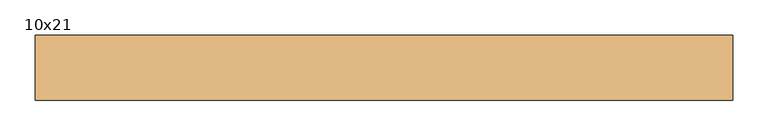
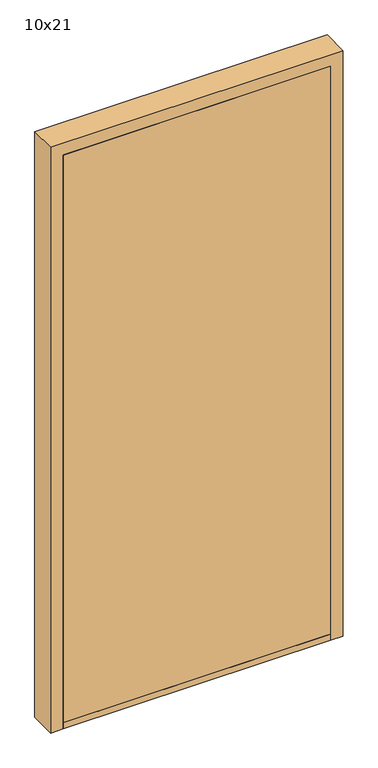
"""IFC4 building model written with IfcOpenShell, lengths in millimetres: door geometry, Innerdør Slett (Diplomat) : 10x21."""

from ifc_helpers import new_model, si_unit, point, frame, frame_2d, origin, origin_with_axes, place, context, project, spatial, polyline, circle_curve, trimmed, segment, composite_curve, outline, extrude, source, transform, mapped, element, save
from ifc_brep_helpers import plane_surface, cylinder_surface, revolved_surface, advanced_brep


def door_10x21_f4578b2d(model_context):
    return source(origin(), model_context, "Body", "SolidModel", [
        advanced_brep(
        [(393.9611305, -60.0, 949.1175955), (388.8520664, -60.0, 949.9496913), (326.0476109, -60.0, 943.6260011), (296.721536, -60.0, 938.7393398), (291.8691983, -60.0, 951.8913379), (295.505009, -60.0, 959.9624074), (300.3175669, -60.0, 964.8810513), (318.8963175, -60.0, 967.2639242), (363.6202158, -60.0, 964.1804415), (368.6891233, -60.0, 964.26032), (417.2687793, -60.0, 969.1517356), (446.379633, -60.0, 951.3474568), (408.3841161, -60.0, 942.6204086), (368.6891233, -67.1084716, 964.26032), (363.6202158, -67.1084716, 964.1804415), (318.8963175, -67.1084716, 967.2639242), (300.3175669, -67.1084716, 964.8810513), (295.505009, -67.1084716, 959.9624074), (291.8691983, -67.1084716, 951.8913379), (296.721536, -67.1084716, 938.7393398), (326.0476109, -67.1084716, 943.6260011), (388.8520664, -67.1084716, 949.9496913), (393.9611305, -67.1084716, 949.1175955), (408.3841161, -67.1084716, 942.6204086), (406.379633, -67.1084716, 951.3474568), (417.2687793, -67.1084716, 969.1517356), (446.379633, -95.0, 951.3474568), (406.379633, -95.0, 951.3474568)],
        [
            (0, 1, circle_curve(frame((389.8538865, -60.0, 940.0), z_axis=(0.0, -1.0, 0.0), x_axis=(-0.9949691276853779, 0.0, -0.10018200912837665)), 10.0)),
            (1, 2),
            (2, 3, circle_curve(frame((307.8569644, -60.0, 962.352734), z_axis=(0.0, 1.0, 0.0), x_axis=(-0.9949691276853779, 0.0, -0.10018200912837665)), 26.1072815)),
            (3, 4, circle_curve(frame((300.9867937, -60.0, 947.7840939), z_axis=(0.0, 1.0, 0.0), x_axis=(-0.9949691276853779, 0.0, -0.10018200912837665)), 10.0)),
            (4, 5),
            (5, 6, circle_curve(frame((304.6226045, -60.0, 955.8551634), z_axis=(0.0, 1.0, 0.0), x_axis=(-0.9949691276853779, 0.0, -0.10018200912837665)), 10.0)),
            (6, 7, circle_curve(frame((313.2326797, -60.0, 937.8033877), z_axis=(0.0, 1.0, 0.0), x_axis=(-0.9949691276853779, 0.0, -0.10018200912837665)), 30.0)),
            (7, 8),
            (8, 9, circle_curve(frame((365.683663, -60.0, 994.1093938), z_axis=(0.0, -1.0, 0.0), x_axis=(-0.9949691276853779, 0.0, -0.10018200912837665)), 30.0)),
            (9, 10),
            (10, 11, circle_curve(frame((426.379633, -60.0, 951.3474568), z_axis=(0.0, 1.0, 0.0), x_axis=(-1.0, 0.0, 0.0)), 20.0)),
            (11, 12, circle_curve(frame((426.379633, -60.0, 951.3474568), z_axis=(0.0, 1.0, 0.0), x_axis=(-1.0, 0.0, 0.0)), 20.0)),
            (12, 0),
            (13, 14, circle_curve(frame((365.683663, -67.1084716, 994.1093938), z_axis=(0.0, 1.0, 0.0), x_axis=(-0.9949691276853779, 0.0, -0.10018200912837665)), 30.0)),
            (14, 15),
            (15, 16, circle_curve(frame((313.2326797, -67.1084716, 937.8033877), z_axis=(0.0, -1.0, 0.0), x_axis=(-0.9949691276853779, 0.0, -0.10018200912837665)), 30.0)),
            (16, 17, circle_curve(frame((304.6226045, -67.1084716, 955.8551634), z_axis=(0.0, -1.0, 0.0), x_axis=(-0.9949691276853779, 0.0, -0.10018200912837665)), 10.0)),
            (17, 18),
            (18, 19, circle_curve(frame((300.9867937, -67.1084716, 947.7840939), z_axis=(0.0, -1.0, 0.0), x_axis=(-0.9949691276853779, 0.0, -0.10018200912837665)), 10.0)),
            (19, 20, circle_curve(frame((307.8569644, -67.1084716, 962.352734), z_axis=(0.0, -1.0, 0.0), x_axis=(-0.9949691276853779, 0.0, -0.10018200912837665)), 26.1072815)),
            (20, 21),
            (21, 22, circle_curve(frame((389.8538865, -67.1084716, 940.0), z_axis=(0.0, 1.0, 0.0), x_axis=(-0.9949691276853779, 0.0, -0.10018200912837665)), 10.0)),
            (22, 23),
            (23, 24, circle_curve(frame((426.379633, -67.1084716, 951.3474568), z_axis=(0.0, 1.0, 0.0), x_axis=(-1.0, 0.0, 0.0)), 20.0)),
            (24, 25, circle_curve(frame((426.379633, -67.1084716, 951.3474568), z_axis=(0.0, 1.0, 0.0), x_axis=(-1.0, 0.0, 0.0)), 20.0)),
            (25, 13),
            (9, 13),
            (25, 10),
            (22, 0),
            (12, 23),
            (21, 1),
            (20, 2),
            (19, 3),
            (18, 4),
            (17, 5),
            (16, 6),
            (15, 7),
            (14, 8),
            (26, 27, circle_curve(frame((426.379633, -95.0, 951.3474568), z_axis=(0.0, -1.0, 0.0), x_axis=(-1.0, 0.0, 0.0)), 20.0)),
            (27, 26, circle_curve(frame((426.379633, -95.0, 951.3474568), z_axis=(0.0, -1.0, 0.0), x_axis=(-1.0, 0.0, 0.0)), 20.0)),
            (27, 24),
            (11, 26),
        ],
        [
            plane_surface(frame((417.6960588, -60.0, 969.1947577), z_axis=(0.0, 1.0000000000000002, 0.0), x_axis=(0.9949691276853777, 0.0, 0.10018200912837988))),
            plane_surface(frame((417.6960588, -67.1084716, 969.1947577), z_axis=(0.0, -1.0000000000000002, 0.0), x_axis=(-0.9949691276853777, 0.0, -0.10018200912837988))),
            plane_surface(frame((368.6891233, -60.0, 964.26032), z_axis=(-0.10018200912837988, 0.0, 0.9949691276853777), x_axis=(0.0, -1.0, 0.0))),
            plane_surface(frame((426.9687366, -60.0, 934.2485115), z_axis=(-0.41072439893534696, 0.0, -0.91175954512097), x_axis=(0.0, -1.0, 0.0))),
            revolved_surface(polyline([(379.9041952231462, -67.1084716, 938.9981799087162), (379.9041952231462, -60.0, 938.9981799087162)]), (389.8538865, -67.1084716, 940.0), (0.0, -1.0, 0.0)),
            plane_surface(frame((388.8520664, -60.0, 949.9496913), z_axis=(0.10018200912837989, 0.0, -0.9949691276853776), x_axis=(0.0, -1.0, 0.0))),
            cylinder_surface(frame((307.8569644, -67.1084716, 962.352734), z_axis=(0.0, 1.0, 0.0), x_axis=(-0.9949691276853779, 0.0, -0.10018200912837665)), 26.1072815),
            cylinder_surface(frame((300.9867937, -67.1084716, 947.7840939), z_axis=(0.0, 1.0, 0.0), x_axis=(-0.9949691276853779, 0.0, -0.10018200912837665)), 10.0),
            plane_surface(frame((291.8691983, -60.0, 951.8913379), z_axis=(-0.9117595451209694, 0.0, 0.41072439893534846), x_axis=(0.0, -1.0, 0.0))),
            cylinder_surface(frame((304.6226045, -67.1084716, 955.8551634), z_axis=(0.0, 1.0, 0.0), x_axis=(-0.9949691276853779, 0.0, -0.10018200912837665)), 10.0),
            cylinder_surface(frame((313.2326797, -67.1084716, 937.8033877), z_axis=(0.0, 1.0, 0.0), x_axis=(-0.9949691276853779, 0.0, -0.10018200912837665)), 30.0),
            plane_surface(frame((318.8963175, -60.0, 967.2639242), z_axis=(0.06878157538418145, 0.0, 0.9976317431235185), x_axis=(0.0, -1.0, 0.0))),
            revolved_surface(polyline([(335.8345891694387, -67.1084716, 991.1039335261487), (335.8345891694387, -60.0, 991.1039335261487)]), (365.683663, -67.1084716, 994.1093938), (0.0, -1.0, 0.0)),
            plane_surface(frame((406.379633, -95.0, 951.3474568), z_axis=(0.0, -1.0, 0.0), x_axis=(0.0, 0.0, -1.0))),
            cylinder_surface(frame((426.379633, -95.0, 951.3474568), z_axis=(0.0, 1.0, 0.0), x_axis=(-1.0, 0.0, 0.0)), 20.0),
        ],
        [
            (0, [[1, 2, 3, 4, 5, 6, 7, 8, 9, 10, 11, 12, 13]]),
            (1, [[14, 15, 16, 17, 18, 19, 20, 21, 22, 23, 24, 25, 26]]),
            (2, [[27, -26, 28, -10]]),
            (3, [[29, -13, 30, -23]]),
            (4, [[-1, -29, -22, 31]]),
            (5, [[-2, -31, -21, 32]]),
            (6, [[-3, -32, -20, 33]]),
            (7, [[-4, -33, -19, 34]]),
            (8, [[-5, -34, -18, 35]]),
            (9, [[-6, -35, -17, 36]]),
            (10, [[-7, -36, -16, 37]]),
            (11, [[-8, -37, -15, 38]]),
            (12, [[-9, -38, -14, -27]]),
            (13, [[39, 40]]),
            (14, [[-40, 41, -24, -30, -12, 42]]),
            (14, [[-39, -42, -11, -28, -25, -41]]),
        ],
    ),
        extrude(outline(composite_curve([segment(trimmed(circle_curve(frame_2d((866.3474568, 426.379633)), 20.0), [point((866.3474568, 446.379633))], [point((866.3474568, 406.379633))], False, "CARTESIAN"), True, "CONTINUOUS"), segment(trimmed(circle_curve(frame_2d((866.3474568, 426.379633)), 20.0), [point((866.3474568, 406.379633))], [point((866.3474568, 446.379633))], False, "CARTESIAN"), True, "CONTINUOUS")], self_intersect=False)), frame((0.0, -95.0, 0.0), z_axis=(0.0, 1.0, 0.0), x_axis=(0.0, 0.0, 1.0)), (0.0, 0.0, 1.0), 5.0),
        advanced_brep(
        [(393.9611305, -100.0, 949.1175955), (408.3841161, -100.0, 942.6204086), (446.379633, -100.0, 951.3474568), (417.2687793, -100.0, 969.1517356), (368.6891233, -100.0, 964.26032), (363.6202158, -100.0, 964.1804415), (318.8963175, -100.0, 967.2639242), (300.3175669, -100.0, 964.8810513), (295.505009, -100.0, 959.9624074), (291.8691983, -100.0, 951.8913379), (296.721536, -100.0, 938.7393398), (326.0476109, -100.0, 943.6260011), (388.8520664, -100.0, 949.9496913), (368.6891233, -92.8915284, 964.26032), (417.2687793, -92.8915284, 969.1517356), (406.379633, -92.8915284, 951.3474568), (408.3841161, -92.8915284, 942.6204086), (393.9611305, -92.8915284, 949.1175955), (388.8520664, -92.8915284, 949.9496913), (326.0476109, -92.8915284, 943.6260011), (296.721536, -92.8915284, 938.7393398), (291.8691983, -92.8915284, 951.8913379), (295.505009, -92.8915284, 959.9624074), (300.3175669, -92.8915284, 964.8810513), (318.8963175, -92.8915284, 967.2639242), (363.6202158, -92.8915284, 964.1804415), (446.379633, -65.0, 951.3474568), (406.379633, -65.0, 951.3474568)],
        [
            (0, 1),
            (1, 2, circle_curve(frame((426.379633, -100.0, 951.3474568), z_axis=(0.0, -1.0, 0.0), x_axis=(-1.0, 0.0, 0.0)), 20.0)),
            (2, 3, circle_curve(frame((426.379633, -100.0, 951.3474568), z_axis=(0.0, -1.0, 0.0), x_axis=(-1.0, 0.0, 0.0)), 20.0)),
            (3, 4),
            (4, 5, circle_curve(frame((365.683663, -100.0, 994.1093938), z_axis=(0.0, 1.0, 0.0), x_axis=(-0.9949691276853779, 0.0, -0.10018200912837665)), 30.0)),
            (5, 6),
            (6, 7, circle_curve(frame((313.2326797, -100.0, 937.8033877), z_axis=(0.0, -1.0, 0.0), x_axis=(-0.9949691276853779, 0.0, -0.10018200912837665)), 30.0)),
            (7, 8, circle_curve(frame((304.6226045, -100.0, 955.8551634), z_axis=(0.0, -1.0, 0.0), x_axis=(-0.9949691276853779, 0.0, -0.10018200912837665)), 10.0)),
            (8, 9),
            (9, 10, circle_curve(frame((300.9867937, -100.0, 947.7840939), z_axis=(0.0, -1.0, 0.0), x_axis=(-0.9949691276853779, 0.0, -0.10018200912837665)), 10.0)),
            (10, 11, circle_curve(frame((307.8569644, -100.0, 962.352734), z_axis=(0.0, -1.0, 0.0), x_axis=(-0.9949691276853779, 0.0, -0.10018200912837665)), 26.1072815)),
            (11, 12),
            (12, 0, circle_curve(frame((389.8538865, -100.0, 940.0), z_axis=(0.0, 1.0, 0.0), x_axis=(-0.9949691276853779, 0.0, -0.10018200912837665)), 10.0)),
            (13, 14),
            (14, 15, circle_curve(frame((426.379633, -92.8915284, 951.3474568), z_axis=(0.0, -1.0, 0.0), x_axis=(-1.0, 0.0, 0.0)), 20.0)),
            (15, 16, circle_curve(frame((426.379633, -92.8915284, 951.3474568), z_axis=(0.0, -1.0, 0.0), x_axis=(-1.0, 0.0, 0.0)), 20.0)),
            (16, 17),
            (17, 18, circle_curve(frame((389.8538865, -92.8915284, 940.0), z_axis=(0.0, -1.0, 0.0), x_axis=(-0.9949691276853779, 0.0, -0.10018200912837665)), 10.0)),
            (18, 19),
            (19, 20, circle_curve(frame((307.8569644, -92.8915284, 962.352734), z_axis=(0.0, 1.0, 0.0), x_axis=(-0.9949691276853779, 0.0, -0.10018200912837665)), 26.1072815)),
            (20, 21, circle_curve(frame((300.9867937, -92.8915284, 947.7840939), z_axis=(0.0, 1.0, 0.0), x_axis=(-0.9949691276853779, 0.0, -0.10018200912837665)), 10.0)),
            (21, 22),
            (22, 23, circle_curve(frame((304.6226045, -92.8915284, 955.8551634), z_axis=(0.0, 1.0, 0.0), x_axis=(-0.9949691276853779, 0.0, -0.10018200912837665)), 10.0)),
            (23, 24, circle_curve(frame((313.2326797, -92.8915284, 937.8033877), z_axis=(0.0, 1.0, 0.0), x_axis=(-0.9949691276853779, 0.0, -0.10018200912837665)), 30.0)),
            (24, 25),
            (25, 13, circle_curve(frame((365.683663, -92.8915284, 994.1093938), z_axis=(0.0, -1.0, 0.0), x_axis=(-0.9949691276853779, 0.0, -0.10018200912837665)), 30.0)),
            (3, 14),
            (13, 4),
            (16, 1),
            (0, 17),
            (12, 18),
            (11, 19),
            (10, 20),
            (9, 21),
            (8, 22),
            (7, 23),
            (6, 24),
            (5, 25),
            (26, 27, circle_curve(frame((426.379633, -65.0, 951.3474568), z_axis=(0.0, 1.0, 0.0), x_axis=(-1.0, 0.0, 0.0)), 20.0)),
            (27, 26, circle_curve(frame((426.379633, -65.0, 951.3474568), z_axis=(0.0, 1.0, 0.0), x_axis=(-1.0, 0.0, 0.0)), 20.0)),
            (26, 2),
            (15, 27),
        ],
        [
            plane_surface(frame((417.6960588, -100.0, 969.1947577), z_axis=(0.0, -1.0000000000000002, 0.0), x_axis=(0.9949691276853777, 0.0, 0.10018200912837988))),
            plane_surface(frame((417.6960588, -92.8915284, 969.1947577), z_axis=(0.0, 1.0000000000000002, 0.0), x_axis=(-0.9949691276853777, 0.0, -0.10018200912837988))),
            plane_surface(frame((368.6891233, -100.0, 964.26032), z_axis=(-0.10018200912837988, 0.0, 0.9949691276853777), x_axis=(0.0, 1.0, 0.0))),
            plane_surface(frame((426.9687366, -100.0, 934.2485115), z_axis=(-0.41072439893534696, 0.0, -0.91175954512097), x_axis=(0.0, 1.0, 0.0))),
            revolved_surface(polyline([(379.9041952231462, -92.8915284, 938.9981799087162), (379.9041952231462, -100.0, 938.9981799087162)]), (389.8538865, -92.8915284, 940.0), (0.0, 1.0, 0.0)),
            plane_surface(frame((388.8520664, -100.0, 949.9496913), z_axis=(0.10018200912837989, 0.0, -0.9949691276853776), x_axis=(0.0, 1.0, 0.0))),
            cylinder_surface(frame((307.8569644, -92.8915284, 962.352734), z_axis=(0.0, -1.0, 0.0), x_axis=(-0.9949691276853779, 0.0, -0.10018200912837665)), 26.1072815),
            cylinder_surface(frame((300.9867937, -92.8915284, 947.7840939), z_axis=(0.0, -1.0, 0.0), x_axis=(-0.9949691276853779, 0.0, -0.10018200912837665)), 10.0),
            plane_surface(frame((291.8691983, -100.0, 951.8913379), z_axis=(-0.9117595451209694, 0.0, 0.41072439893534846), x_axis=(0.0, 1.0, 0.0))),
            cylinder_surface(frame((304.6226045, -92.8915284, 955.8551634), z_axis=(0.0, -1.0, 0.0), x_axis=(-0.9949691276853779, 0.0, -0.10018200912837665)), 10.0),
            cylinder_surface(frame((313.2326797, -92.8915284, 937.8033877), z_axis=(0.0, -1.0, 0.0), x_axis=(-0.9949691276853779, 0.0, -0.10018200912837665)), 30.0),
            plane_surface(frame((318.8963175, -100.0, 967.2639242), z_axis=(0.06878157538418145, 0.0, 0.9976317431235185), x_axis=(0.0, 1.0, 0.0))),
            revolved_surface(polyline([(335.8345891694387, -92.8915284, 991.1039335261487), (335.8345891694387, -100.0, 991.1039335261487)]), (365.683663, -92.8915284, 994.1093938), (0.0, 1.0, 0.0)),
            plane_surface(frame((406.379633, -65.0, 951.3474568), z_axis=(0.0, 1.0, 0.0), x_axis=(0.0, 0.0, -1.0))),
            cylinder_surface(frame((426.379633, -65.0, 951.3474568), z_axis=(0.0, -1.0, 0.0), x_axis=(-1.0, 0.0, 0.0)), 20.0),
        ],
        [
            (0, [[1, 2, 3, 4, 5, 6, 7, 8, 9, 10, 11, 12, 13]]),
            (1, [[14, 15, 16, 17, 18, 19, 20, 21, 22, 23, 24, 25, 26]]),
            (2, [[-4, 27, -14, 28]]),
            (3, [[-17, 29, -1, 30]]),
            (4, [[31, -18, -30, -13]]),
            (5, [[32, -19, -31, -12]]),
            (6, [[33, -20, -32, -11]]),
            (7, [[34, -21, -33, -10]]),
            (8, [[35, -22, -34, -9]]),
            (9, [[36, -23, -35, -8]]),
            (10, [[37, -24, -36, -7]]),
            (11, [[38, -25, -37, -6]]),
            (12, [[-28, -26, -38, -5]]),
            (13, [[39, 40]]),
            (14, [[41, -2, -29, -16, 42, -39]]),
            (14, [[-42, -15, -27, -3, -41, -40]]),
        ],
    ),
        extrude(outline(composite_curve([segment(trimmed(circle_curve(frame_2d((866.3474568, 426.379633)), 20.0), [point((866.3474568, 446.379633))], [point((866.3474568, 406.379633))], False, "CARTESIAN"), True, "CONTINUOUS"), segment(trimmed(circle_curve(frame_2d((866.3474568, 426.379633)), 20.0), [point((866.3474568, 406.379633))], [point((866.3474568, 446.379633))], False, "CARTESIAN"), True, "CONTINUOUS")], self_intersect=False)), frame((0.0, -70.0, 0.0), z_axis=(0.0, 1.0, 0.0), x_axis=(0.0, 0.0, 1.0)), (0.0, 0.0, 1.0), 5.0),
        extrude(outline(polyline([(506.379633, -53.0), (506.379633, -145.0), (-399.620367, -145.0), (-399.620367, -53.0), (506.379633, -53.0)])), origin_with_axes(), (0.0, 0.0, 1.0), 22.0),
        extrude(outline(polyline([(506.379633, -95.0), (506.379633, -145.0), (-399.620367, -145.0), (-399.620367, -95.0), (506.379633, -95.0)])), frame((0.0, 0.0, 22.0), z_axis=(0.0, 0.0, 1.0), x_axis=(1.0, 0.0, 0.0)), (0.0, 0.0, 1.0), 2031.0),
        extrude(outline(polyline([(0.0, -399.620367), (2053.0, -399.620367), (2053.0, 506.379633), (0.0, 506.379633), (0.0, 548.379633), (2095.0, 548.379633), (2095.0, -441.620367), (0.0, -441.620367), (0.0, -399.620367)])), frame((0.0, -145.0, 0.0), z_axis=(0.0, 1.0, 0.0), x_axis=(0.0, 0.0, 1.0)), (0.0, 0.0, 1.0), 92.0),
    ])


if __name__ == "__main__":
    model = new_model("IFC4")
    model_context = context("Model", 3, world=origin())
    ifc_project = project(units=[si_unit("LENGTHUNIT", "METRE", prefix="MILLI")], contexts=[model_context])
    site = spatial("IfcSite", under=ifc_project)
    building = spatial("IfcBuilding", under=site)
    placement = place(None, origin())
    door_10x21_shape = door_10x21_f4578b2d(model_context)
    element("IfcDoor", 1, ObjectType="Innerdør Slett (Diplomat) : 10x21", at=placement, inside=building, context=model_context, shape_type="MappedRepresentation", body=[
        mapped(door_10x21_shape, transform((0.0, 0.0, 0.0), x_axis=(1.0, 0.0, 0.0), y_axis=(0.0, 1.0, 0.0), z_axis=(0.0, 0.0, 1.0))),
    ])
    save(model, "model.ifc")
